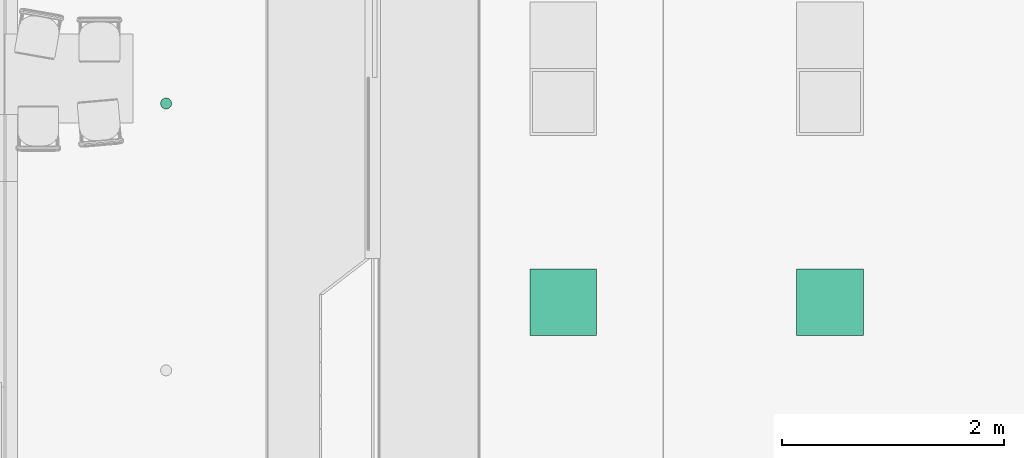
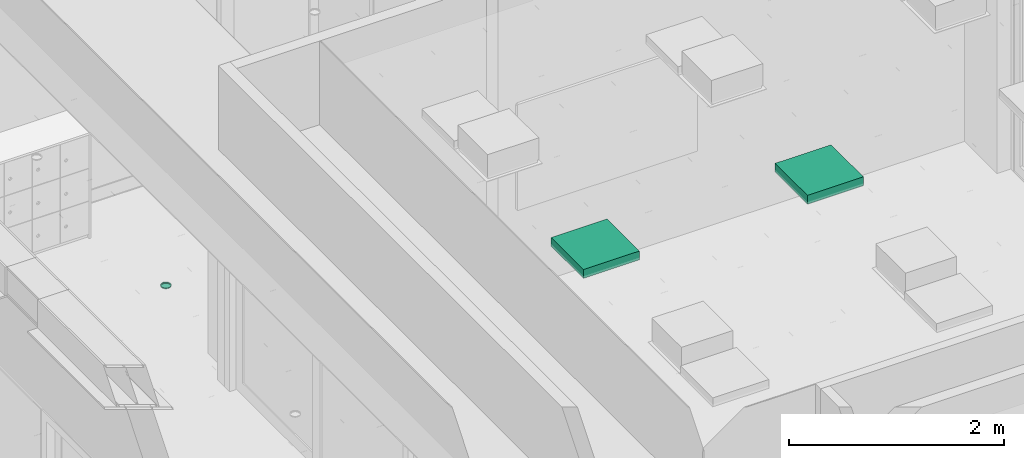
# One storey, part 267 of 347: 3 flow terminals.
"""IFC2X3 building model written with IfcOpenShell, lengths in millimetres."""

from ifc_helpers import new_model, entity, si_unit, converted_unit, derived_unit, money_unit, direction, frame, origin_with_axes, place, context, subcontext, project, spatial, open_shell, faceted_brep, surface_model, source, transform, mapped, type_object, type_shapes, element, save


model = new_model("IFC2X3")

# Units and contexts
model_context = context("Model", 3, precision=0.01, world=origin_with_axes(), true_north=direction((0.0, 1.0)))
plan_context = context("Plan", 3, precision=0.01, world=origin_with_axes(), true_north=direction((0.0, 1.0)))
body_context = subcontext(model_context, "Body", "Model", "MODEL_VIEW")
ifc_project = project(units=[si_unit("LENGTHUNIT", "METRE", prefix="MILLI"), si_unit("AREAUNIT", "SQUARE_METRE"), si_unit("VOLUMEUNIT", "CUBIC_METRE"), converted_unit("PLANEANGLEUNIT", "DEGREE", entity("IfcPlaneAngleMeasure", 0.0174532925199), si_unit("PLANEANGLEUNIT", "RADIAN"), dimensions=[0, 0, 0, 0, 0, 0, 0]), money_unit("EUR"), converted_unit("TIMEUNIT", "Year", entity("IfcTimeMeasure", 31556926.0), si_unit("TIMEUNIT", "SECOND"), dimensions=[0, 0, 1, 0, 0, 0, 0]), si_unit("MASSUNIT", "GRAM", prefix="KILO"), si_unit("THERMODYNAMICTEMPERATUREUNIT", "DEGREE_CELSIUS"), si_unit("LUMINOUSINTENSITYUNIT", "LUMEN"), si_unit("ENERGYUNIT", "JOULE", prefix="MEGA"), derived_unit("THERMALCONDUCTANCEUNIT", [(si_unit("POWERUNIT", "WATT"), 1), (si_unit("LENGTHUNIT", "METRE"), -1), (si_unit("THERMODYNAMICTEMPERATUREUNIT", "KELVIN"), -1)]), derived_unit("SPECIFICHEATCAPACITYUNIT", [(si_unit("ENERGYUNIT", "JOULE"), 1), (si_unit("MASSUNIT", "GRAM", prefix="KILO"), -1), (si_unit("THERMODYNAMICTEMPERATUREUNIT", "KELVIN"), -1)]), derived_unit("MASSDENSITYUNIT", [(si_unit("MASSUNIT", "GRAM", prefix="KILO"), 1), (si_unit("VOLUMEUNIT", "CUBIC_METRE"), -1)])], contexts=[model_context, plan_context])

# Site, building, storey
site_placement = place(None, origin_with_axes())
site = spatial("IfcSite", under=ifc_project, at=site_placement, Name="Site", CompositionType="ELEMENT")
building_placement = place(site_placement, origin_with_axes())
building = spatial("IfcBuilding", under=site, at=building_placement, Name="Naam gebouw", CompositionType="ELEMENT")
storey_placement = place(building_placement, origin_with_axes())
storey = spatial("IfcBuildingStorey", under=building, at=storey_placement, Name="begane grond", CompositionType="ELEMENT", Elevation=0.0)

# Flow terminals
lamp_type_1 = type_object("IfcLampType", Name="Spot plafond 01 25", PredefinedType="NOTDEFINED")
shared_shape_1 = source(origin_with_axes(), body_context, "Body", "SurfaceModel", [
    faceted_brep([(50.0, 0.0, -10.0), (46.1939766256, 19.1341716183, -10.0), (46.1939766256, 19.1341716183, 0.0), (50.0, 0.0, 0.0), (46.1939766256, -19.1341716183, -10.0), (35.3553390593, -35.3553390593, -10.0), (19.1341716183, -46.1939766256, -10.0), (0.0, -50.0, -10.0), (-19.1341716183, -46.1939766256, -10.0), (-35.3553390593, -35.3553390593, -10.0), (-46.1939766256, -19.1341716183, -10.0), (-50.0, 0.0, -10.0), (-46.1939766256, 19.1341716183, -10.0), (-35.3553390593, 35.3553390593, -10.0), (-19.1341716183, 46.1939766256, -10.0), (0.0, 50.0, -10.0), (19.1341716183, 46.1939766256, -10.0), (35.3553390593, 35.3553390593, -10.0), (40.0, 0.0, -10.0), (36.9551813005, 15.3073372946, -10.0), (28.2842712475, 28.2842712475, -10.0), (15.3073372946, 36.9551813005, -10.0), (0.0, 40.0, -10.0), (-15.3073372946, 36.9551813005, -10.0), (-28.2842712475, 28.2842712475, -10.0), (-36.9551813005, 15.3073372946, -10.0), (-40.0, 0.0, -10.0), (-36.9551813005, -15.3073372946, -10.0), (-28.2842712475, -28.2842712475, -10.0), (-15.3073372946, -36.9551813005, -10.0), (0.0, -40.0, -10.0), (15.3073372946, -36.9551813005, -10.0), (28.2842712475, -28.2842712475, -10.0), (36.9551813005, -15.3073372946, -10.0), (35.3553390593, 35.3553390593, 0.0), (19.1341716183, 46.1939766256, 0.0), (0.0, 50.0, 0.0), (-19.1341716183, 46.1939766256, 0.0), (-35.3553390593, 35.3553390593, 0.0), (-46.1939766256, 19.1341716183, 0.0), (-50.0, 0.0, 0.0), (-46.1939766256, -19.1341716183, 0.0), (-35.3553390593, -35.3553390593, 0.0), (-19.1341716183, -46.1939766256, 0.0), (0.0, -50.0, 0.0), (19.1341716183, -46.1939766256, 0.0), (35.3553390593, -35.3553390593, 0.0), (46.1939766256, -19.1341716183, 0.0), (40.0, 0.0, 0.0), (36.9551813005, -15.3073372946, 0.0), (28.2842712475, -28.2842712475, 0.0), (15.3073372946, -36.9551813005, 0.0), (0.0, -40.0, 0.0), (-15.3073372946, -36.9551813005, 0.0), (-28.2842712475, -28.2842712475, 0.0), (-36.9551813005, -15.3073372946, 0.0), (-40.0, 0.0, 0.0), (-36.9551813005, 15.3073372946, 0.0), (-28.2842712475, 28.2842712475, 0.0), (-15.3073372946, 36.9551813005, 0.0), (0.0, 40.0, 0.0), (15.3073372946, 36.9551813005, 0.0), (28.2842712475, 28.2842712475, 0.0), (36.9551813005, 15.3073372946, 0.0)], [[[0, 1, 2, 3]], [[0, 4, 5, 6, 7, 8, 9, 10, 11, 12, 13, 14, 15, 16, 17, 1], [18, 19, 20, 21, 22, 23, 24, 25, 26, 27, 28, 29, 30, 31, 32, 33]], [[1, 17, 34, 2]], [[3, 2, 34, 35, 36, 37, 38, 39, 40, 41, 42, 43, 44, 45, 46, 47], [48, 49, 50, 51, 52, 53, 54, 55, 56, 57, 58, 59, 60, 61, 62, 63]], [[4, 0, 3, 47]], [[5, 4, 47, 46]], [[6, 5, 46, 45]], [[7, 6, 45, 44]], [[8, 7, 44, 43]], [[9, 8, 43, 42]], [[10, 9, 42, 41]], [[11, 10, 41, 40]], [[12, 11, 40, 39]], [[13, 12, 39, 38]], [[14, 13, 38, 37]], [[15, 14, 37, 36]], [[16, 15, 36, 35]], [[17, 16, 35, 34]], [[19, 18, 48, 63]], [[20, 19, 63, 62]], [[21, 20, 62, 61]], [[22, 21, 61, 60]], [[23, 22, 60, 59]], [[24, 23, 59, 58]], [[25, 24, 58, 57]], [[26, 25, 57, 56]], [[27, 26, 56, 55]], [[28, 27, 55, 54]], [[29, 28, 54, 53]], [[30, 29, 53, 52]], [[31, 30, 52, 51]], [[32, 31, 51, 50]], [[33, 32, 50, 49]], [[18, 33, 49, 48]]]),
    surface_model("IfcShellBasedSurfaceModel", [(40.0, 0.0, -8.9), (36.9551813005, -15.3073372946, -8.9), (28.2842712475, -28.2842712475, -8.9), (15.3073372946, -36.9551813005, -8.9), (0.0, -40.0, -8.9), (-15.3073372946, -36.9551813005, -8.9), (-28.2842712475, -28.2842712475, -8.9), (-36.9551813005, -15.3073372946, -8.9), (-40.0, 0.0, -8.9), (-36.9551813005, 15.3073372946, -8.9), (-28.2842712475, 28.2842712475, -8.9), (-15.3073372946, 36.9551813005, -8.9), (0.0, 40.0, -8.9), (15.3073372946, 36.9551813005, -8.9), (28.2842712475, 28.2842712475, -8.9), (36.9551813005, 15.3073372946, -8.9)], [open_shell([[[0, 1, 2, 3, 4, 5, 6, 7, 8, 9, 10, 11, 12, 13, 14, 15]]])]),
])
type_shapes(lamp_type_1, [shared_shape_1])
flow_terminal_placement = place(storey_placement, frame((46155.0, 33824.9999638, 3000.0), z_axis=(0.0, 0.0, 1.0), x_axis=(1.0, 0.0, 0.0)))
element("IfcFlowTerminal", 1, at=flow_terminal_placement, inside=storey, type_object=lamp_type_1, Name="63_Lamp-x", ObjectType="Lamp", context=body_context, shape_type="MappedRepresentation", body=[
    mapped(shared_shape_1, transform((0.0, 0.0, 0.0))),
])
lamp_type_2 = type_object("IfcLampType", Name="TL plafond 25", PredefinedType="NOTDEFINED")
shared_shape_2 = source(origin_with_axes(), body_context, "Body", "SurfaceModel", [
    faceted_brep([(0.0, 0.0, -100.0), (600.0, 0.0, -100.0), (600.0, 0.0, 0.0), (0.0, 0.0, 0.0), (0.0, 600.0, -100.0), (600.0, 600.0, -100.0), (40.0, 40.0, -100.0), (560.0, 40.0, -100.0), (560.0, 560.0, -100.0), (40.0, 560.0, -100.0), (600.0, 600.0, 0.0), (0.0, 600.0, 0.0), (40.0, 40.0, 0.0), (40.0, 560.0, 0.0), (560.0, 560.0, 0.0), (560.0, 40.0, 0.0)], [[[0, 1, 2, 3]], [[0, 4, 5, 1], [6, 7, 8, 9]], [[1, 5, 10, 2]], [[3, 2, 10, 11], [12, 13, 14, 15]], [[4, 0, 3, 11]], [[5, 4, 11, 10]], [[7, 6, 12, 15]], [[8, 7, 15, 14]], [[9, 8, 14, 13]], [[6, 9, 13, 12]]]),
    faceted_brep([(40.0, 40.0, -16.3333333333), (560.0, 40.0, -16.3333333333), (560.0, 40.0, 0.0), (40.0, 40.0, 0.0), (40.0, 560.0, -16.3333333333), (560.0, 560.0, -16.3333333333), (560.0, 560.0, 0.0), (40.0, 560.0, 0.0)], [[[0, 1, 2, 3]], [[0, 4, 5, 1]], [[1, 5, 6, 2]], [[3, 2, 6, 7]], [[4, 0, 3, 7]], [[5, 4, 7, 6]]]),
    surface_model("IfcShellBasedSurfaceModel", [(559.0, 41.0, -100.0), (40.0, 41.0, -100.0), (40.0, 559.0, -100.0), (559.0, 559.0, -100.0)], [open_shell([[[0, 1, 2, 3]]])]),
    faceted_brep([(40.0, 40.0, -100.0), (560.0, 40.0, -100.0), (560.0, 40.0, -60.0), (40.0, 40.0, -60.0), (40.0, 560.0, -100.0), (560.0, 560.0, -100.0), (41.0, 41.0, -100.0), (559.0, 41.0, -100.0), (559.0, 559.0, -100.0), (41.0, 559.0, -100.0), (560.0, 560.0, -60.0), (40.0, 560.0, -60.0), (41.0, 41.0, -60.0), (41.0, 559.0, -60.0), (559.0, 559.0, -60.0), (559.0, 41.0, -60.0)], [[[0, 1, 2, 3]], [[0, 4, 5, 1], [6, 7, 8, 9]], [[1, 5, 10, 2]], [[3, 2, 10, 11], [12, 13, 14, 15]], [[4, 0, 3, 11]], [[5, 4, 11, 10]], [[7, 6, 12, 15]], [[8, 7, 15, 14]], [[9, 8, 14, 13]], [[6, 9, 13, 12]]]),
    faceted_brep([(40.0, 144.0, -48.3333333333), (40.0, 149.740251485, -47.191526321), (560.0, 149.740251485, -47.191526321), (560.0, 144.0, -48.3333333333), (40.0, 138.259748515, -47.191526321), (40.0, 133.393398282, -43.9399350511), (40.0, 130.141807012, -39.0735848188), (40.0, 129.0, -33.3333333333), (40.0, 130.141807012, -27.5930818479), (40.0, 133.393398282, -22.7267316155), (40.0, 138.259748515, -19.4751403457), (40.0, 144.0, -18.3333333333), (40.0, 149.740251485, -19.4751403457), (40.0, 154.606601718, -22.7267316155), (40.0, 157.858192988, -27.5930818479), (40.0, 159.0, -33.3333333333), (40.0, 157.858192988, -39.0735848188), (40.0, 154.606601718, -43.9399350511), (40.0, 144.0, -46.3333333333), (40.0, 148.974884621, -45.343767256), (40.0, 153.192388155, -42.5257214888), (40.0, 156.010433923, -38.3082179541), (40.0, 157.0, -33.3333333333), (40.0, 156.010433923, -28.3584487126), (40.0, 153.192388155, -24.1409451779), (40.0, 148.974884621, -21.3228994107), (40.0, 144.0, -20.3333333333), (40.0, 139.025115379, -21.3228994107), (40.0, 134.807611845, -24.1409451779), (40.0, 131.989566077, -28.3584487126), (40.0, 131.0, -33.3333333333), (40.0, 131.989566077, -38.3082179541), (40.0, 134.807611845, -42.5257214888), (40.0, 139.025115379, -45.343767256), (560.0, 154.606601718, -43.9399350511), (560.0, 157.858192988, -39.0735848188), (560.0, 159.0, -33.3333333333), (560.0, 157.858192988, -27.5930818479), (560.0, 154.606601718, -22.7267316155), (560.0, 149.740251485, -19.4751403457), (560.0, 144.0, -18.3333333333), (560.0, 138.259748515, -19.4751403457), (560.0, 133.393398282, -22.7267316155), (560.0, 130.141807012, -27.5930818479), (560.0, 129.0, -33.3333333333), (560.0, 130.141807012, -39.0735848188), (560.0, 133.393398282, -43.9399350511), (560.0, 138.259748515, -47.191526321), (560.0, 144.0, -46.3333333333), (560.0, 139.025115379, -45.343767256), (560.0, 134.807611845, -42.5257214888), (560.0, 131.989566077, -38.3082179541), (560.0, 131.0, -33.3333333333), (560.0, 131.989566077, -28.3584487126), (560.0, 134.807611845, -24.1409451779), (560.0, 139.025115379, -21.3228994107), (560.0, 144.0, -20.3333333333), (560.0, 148.974884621, -21.3228994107), (560.0, 153.192388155, -24.1409451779), (560.0, 156.010433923, -28.3584487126), (560.0, 157.0, -33.3333333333), (560.0, 156.010433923, -38.3082179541), (560.0, 153.192388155, -42.5257214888), (560.0, 148.974884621, -45.343767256)], [[[0, 1, 2, 3]], [[0, 4, 5, 6, 7, 8, 9, 10, 11, 12, 13, 14, 15, 16, 17, 1], [18, 19, 20, 21, 22, 23, 24, 25, 26, 27, 28, 29, 30, 31, 32, 33]], [[1, 17, 34, 2]], [[3, 2, 34, 35, 36, 37, 38, 39, 40, 41, 42, 43, 44, 45, 46, 47], [48, 49, 50, 51, 52, 53, 54, 55, 56, 57, 58, 59, 60, 61, 62, 63]], [[4, 0, 3, 47]], [[5, 4, 47, 46]], [[6, 5, 46, 45]], [[7, 6, 45, 44]], [[8, 7, 44, 43]], [[9, 8, 43, 42]], [[10, 9, 42, 41]], [[11, 10, 41, 40]], [[12, 11, 40, 39]], [[13, 12, 39, 38]], [[14, 13, 38, 37]], [[15, 14, 37, 36]], [[16, 15, 36, 35]], [[17, 16, 35, 34]], [[19, 18, 48, 63]], [[20, 19, 63, 62]], [[21, 20, 62, 61]], [[22, 21, 61, 60]], [[23, 22, 60, 59]], [[24, 23, 59, 58]], [[25, 24, 58, 57]], [[26, 25, 57, 56]], [[27, 26, 56, 55]], [[28, 27, 55, 54]], [[29, 28, 54, 53]], [[30, 29, 53, 52]], [[31, 30, 52, 51]], [[32, 31, 51, 50]], [[33, 32, 50, 49]], [[18, 33, 49, 48]]]),
    faceted_brep([(40.0, 248.0, -48.3333333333), (40.0, 253.740251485, -47.191526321), (560.0, 253.740251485, -47.191526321), (560.0, 248.0, -48.3333333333), (40.0, 242.259748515, -47.191526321), (40.0, 237.393398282, -43.9399350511), (40.0, 234.141807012, -39.0735848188), (40.0, 233.0, -33.3333333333), (40.0, 234.141807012, -27.5930818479), (40.0, 237.393398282, -22.7267316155), (40.0, 242.259748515, -19.4751403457), (40.0, 248.0, -18.3333333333), (40.0, 253.740251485, -19.4751403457), (40.0, 258.606601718, -22.7267316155), (40.0, 261.858192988, -27.5930818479), (40.0, 263.0, -33.3333333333), (40.0, 261.858192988, -39.0735848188), (40.0, 258.606601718, -43.9399350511), (40.0, 248.0, -46.3333333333), (40.0, 252.974884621, -45.343767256), (40.0, 257.192388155, -42.5257214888), (40.0, 260.010433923, -38.3082179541), (40.0, 261.0, -33.3333333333), (40.0, 260.010433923, -28.3584487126), (40.0, 257.192388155, -24.1409451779), (40.0, 252.974884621, -21.3228994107), (40.0, 248.0, -20.3333333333), (40.0, 243.025115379, -21.3228994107), (40.0, 238.807611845, -24.1409451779), (40.0, 235.989566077, -28.3584487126), (40.0, 235.0, -33.3333333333), (40.0, 235.989566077, -38.3082179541), (40.0, 238.807611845, -42.5257214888), (40.0, 243.025115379, -45.343767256), (560.0, 258.606601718, -43.9399350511), (560.0, 261.858192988, -39.0735848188), (560.0, 263.0, -33.3333333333), (560.0, 261.858192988, -27.5930818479), (560.0, 258.606601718, -22.7267316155), (560.0, 253.740251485, -19.4751403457), (560.0, 248.0, -18.3333333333), (560.0, 242.259748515, -19.4751403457), (560.0, 237.393398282, -22.7267316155), (560.0, 234.141807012, -27.5930818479), (560.0, 233.0, -33.3333333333), (560.0, 234.141807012, -39.0735848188), (560.0, 237.393398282, -43.9399350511), (560.0, 242.259748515, -47.191526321), (560.0, 248.0, -46.3333333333), (560.0, 243.025115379, -45.343767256), (560.0, 238.807611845, -42.5257214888), (560.0, 235.989566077, -38.3082179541), (560.0, 235.0, -33.3333333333), (560.0, 235.989566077, -28.3584487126), (560.0, 238.807611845, -24.1409451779), (560.0, 243.025115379, -21.3228994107), (560.0, 248.0, -20.3333333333), (560.0, 252.974884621, -21.3228994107), (560.0, 257.192388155, -24.1409451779), (560.0, 260.010433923, -28.3584487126), (560.0, 261.0, -33.3333333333), (560.0, 260.010433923, -38.3082179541), (560.0, 257.192388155, -42.5257214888), (560.0, 252.974884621, -45.343767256)], [[[0, 1, 2, 3]], [[0, 4, 5, 6, 7, 8, 9, 10, 11, 12, 13, 14, 15, 16, 17, 1], [18, 19, 20, 21, 22, 23, 24, 25, 26, 27, 28, 29, 30, 31, 32, 33]], [[1, 17, 34, 2]], [[3, 2, 34, 35, 36, 37, 38, 39, 40, 41, 42, 43, 44, 45, 46, 47], [48, 49, 50, 51, 52, 53, 54, 55, 56, 57, 58, 59, 60, 61, 62, 63]], [[4, 0, 3, 47]], [[5, 4, 47, 46]], [[6, 5, 46, 45]], [[7, 6, 45, 44]], [[8, 7, 44, 43]], [[9, 8, 43, 42]], [[10, 9, 42, 41]], [[11, 10, 41, 40]], [[12, 11, 40, 39]], [[13, 12, 39, 38]], [[14, 13, 38, 37]], [[15, 14, 37, 36]], [[16, 15, 36, 35]], [[17, 16, 35, 34]], [[19, 18, 48, 63]], [[20, 19, 63, 62]], [[21, 20, 62, 61]], [[22, 21, 61, 60]], [[23, 22, 60, 59]], [[24, 23, 59, 58]], [[25, 24, 58, 57]], [[26, 25, 57, 56]], [[27, 26, 56, 55]], [[28, 27, 55, 54]], [[29, 28, 54, 53]], [[30, 29, 53, 52]], [[31, 30, 52, 51]], [[32, 31, 51, 50]], [[33, 32, 50, 49]], [[18, 33, 49, 48]]]),
    faceted_brep([(40.0, 352.0, -48.3333333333), (40.0, 357.740251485, -47.191526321), (560.0, 357.740251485, -47.191526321), (560.0, 352.0, -48.3333333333), (40.0, 346.259748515, -47.191526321), (40.0, 341.393398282, -43.9399350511), (40.0, 338.141807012, -39.0735848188), (40.0, 337.0, -33.3333333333), (40.0, 338.141807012, -27.5930818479), (40.0, 341.393398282, -22.7267316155), (40.0, 346.259748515, -19.4751403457), (40.0, 352.0, -18.3333333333), (40.0, 357.740251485, -19.4751403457), (40.0, 362.606601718, -22.7267316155), (40.0, 365.858192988, -27.5930818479), (40.0, 367.0, -33.3333333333), (40.0, 365.858192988, -39.0735848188), (40.0, 362.606601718, -43.9399350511), (40.0, 352.0, -46.3333333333), (40.0, 356.974884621, -45.343767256), (40.0, 361.192388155, -42.5257214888), (40.0, 364.010433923, -38.3082179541), (40.0, 365.0, -33.3333333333), (40.0, 364.010433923, -28.3584487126), (40.0, 361.192388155, -24.1409451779), (40.0, 356.974884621, -21.3228994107), (40.0, 352.0, -20.3333333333), (40.0, 347.025115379, -21.3228994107), (40.0, 342.807611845, -24.1409451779), (40.0, 339.989566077, -28.3584487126), (40.0, 339.0, -33.3333333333), (40.0, 339.989566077, -38.3082179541), (40.0, 342.807611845, -42.5257214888), (40.0, 347.025115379, -45.343767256), (560.0, 362.606601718, -43.9399350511), (560.0, 365.858192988, -39.0735848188), (560.0, 367.0, -33.3333333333), (560.0, 365.858192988, -27.5930818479), (560.0, 362.606601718, -22.7267316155), (560.0, 357.740251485, -19.4751403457), (560.0, 352.0, -18.3333333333), (560.0, 346.259748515, -19.4751403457), (560.0, 341.393398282, -22.7267316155), (560.0, 338.141807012, -27.5930818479), (560.0, 337.0, -33.3333333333), (560.0, 338.141807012, -39.0735848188), (560.0, 341.393398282, -43.9399350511), (560.0, 346.259748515, -47.191526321), (560.0, 352.0, -46.3333333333), (560.0, 347.025115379, -45.343767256), (560.0, 342.807611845, -42.5257214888), (560.0, 339.989566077, -38.3082179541), (560.0, 339.0, -33.3333333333), (560.0, 339.989566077, -28.3584487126), (560.0, 342.807611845, -24.1409451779), (560.0, 347.025115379, -21.3228994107), (560.0, 352.0, -20.3333333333), (560.0, 356.974884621, -21.3228994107), (560.0, 361.192388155, -24.1409451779), (560.0, 364.010433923, -28.3584487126), (560.0, 365.0, -33.3333333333), (560.0, 364.010433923, -38.3082179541), (560.0, 361.192388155, -42.5257214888), (560.0, 356.974884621, -45.343767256)], [[[0, 1, 2, 3]], [[0, 4, 5, 6, 7, 8, 9, 10, 11, 12, 13, 14, 15, 16, 17, 1], [18, 19, 20, 21, 22, 23, 24, 25, 26, 27, 28, 29, 30, 31, 32, 33]], [[1, 17, 34, 2]], [[3, 2, 34, 35, 36, 37, 38, 39, 40, 41, 42, 43, 44, 45, 46, 47], [48, 49, 50, 51, 52, 53, 54, 55, 56, 57, 58, 59, 60, 61, 62, 63]], [[4, 0, 3, 47]], [[5, 4, 47, 46]], [[6, 5, 46, 45]], [[7, 6, 45, 44]], [[8, 7, 44, 43]], [[9, 8, 43, 42]], [[10, 9, 42, 41]], [[11, 10, 41, 40]], [[12, 11, 40, 39]], [[13, 12, 39, 38]], [[14, 13, 38, 37]], [[15, 14, 37, 36]], [[16, 15, 36, 35]], [[17, 16, 35, 34]], [[19, 18, 48, 63]], [[20, 19, 63, 62]], [[21, 20, 62, 61]], [[22, 21, 61, 60]], [[23, 22, 60, 59]], [[24, 23, 59, 58]], [[25, 24, 58, 57]], [[26, 25, 57, 56]], [[27, 26, 56, 55]], [[28, 27, 55, 54]], [[29, 28, 54, 53]], [[30, 29, 53, 52]], [[31, 30, 52, 51]], [[32, 31, 51, 50]], [[33, 32, 50, 49]], [[18, 33, 49, 48]]]),
    faceted_brep([(40.0, 456.0, -48.3333333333), (40.0, 461.740251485, -47.191526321), (560.0, 461.740251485, -47.191526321), (560.0, 456.0, -48.3333333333), (40.0, 450.259748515, -47.191526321), (40.0, 445.393398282, -43.9399350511), (40.0, 442.141807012, -39.0735848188), (40.0, 441.0, -33.3333333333), (40.0, 442.141807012, -27.5930818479), (40.0, 445.393398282, -22.7267316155), (40.0, 450.259748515, -19.4751403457), (40.0, 456.0, -18.3333333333), (40.0, 461.740251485, -19.4751403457), (40.0, 466.606601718, -22.7267316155), (40.0, 469.858192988, -27.5930818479), (40.0, 471.0, -33.3333333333), (40.0, 469.858192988, -39.0735848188), (40.0, 466.606601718, -43.9399350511), (40.0, 456.0, -46.3333333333), (40.0, 460.974884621, -45.343767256), (40.0, 465.192388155, -42.5257214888), (40.0, 468.010433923, -38.3082179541), (40.0, 469.0, -33.3333333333), (40.0, 468.010433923, -28.3584487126), (40.0, 465.192388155, -24.1409451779), (40.0, 460.974884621, -21.3228994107), (40.0, 456.0, -20.3333333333), (40.0, 451.025115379, -21.3228994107), (40.0, 446.807611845, -24.1409451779), (40.0, 443.989566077, -28.3584487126), (40.0, 443.0, -33.3333333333), (40.0, 443.989566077, -38.3082179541), (40.0, 446.807611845, -42.5257214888), (40.0, 451.025115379, -45.343767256), (560.0, 466.606601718, -43.9399350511), (560.0, 469.858192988, -39.0735848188), (560.0, 471.0, -33.3333333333), (560.0, 469.858192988, -27.5930818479), (560.0, 466.606601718, -22.7267316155), (560.0, 461.740251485, -19.4751403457), (560.0, 456.0, -18.3333333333), (560.0, 450.259748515, -19.4751403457), (560.0, 445.393398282, -22.7267316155), (560.0, 442.141807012, -27.5930818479), (560.0, 441.0, -33.3333333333), (560.0, 442.141807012, -39.0735848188), (560.0, 445.393398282, -43.9399350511), (560.0, 450.259748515, -47.191526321), (560.0, 456.0, -46.3333333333), (560.0, 451.025115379, -45.343767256), (560.0, 446.807611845, -42.5257214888), (560.0, 443.989566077, -38.3082179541), (560.0, 443.0, -33.3333333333), (560.0, 443.989566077, -28.3584487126), (560.0, 446.807611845, -24.1409451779), (560.0, 451.025115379, -21.3228994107), (560.0, 456.0, -20.3333333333), (560.0, 460.974884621, -21.3228994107), (560.0, 465.192388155, -24.1409451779), (560.0, 468.010433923, -28.3584487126), (560.0, 469.0, -33.3333333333), (560.0, 468.010433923, -38.3082179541), (560.0, 465.192388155, -42.5257214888), (560.0, 460.974884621, -45.343767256)], [[[0, 1, 2, 3]], [[0, 4, 5, 6, 7, 8, 9, 10, 11, 12, 13, 14, 15, 16, 17, 1], [18, 19, 20, 21, 22, 23, 24, 25, 26, 27, 28, 29, 30, 31, 32, 33]], [[1, 17, 34, 2]], [[3, 2, 34, 35, 36, 37, 38, 39, 40, 41, 42, 43, 44, 45, 46, 47], [48, 49, 50, 51, 52, 53, 54, 55, 56, 57, 58, 59, 60, 61, 62, 63]], [[4, 0, 3, 47]], [[5, 4, 47, 46]], [[6, 5, 46, 45]], [[7, 6, 45, 44]], [[8, 7, 44, 43]], [[9, 8, 43, 42]], [[10, 9, 42, 41]], [[11, 10, 41, 40]], [[12, 11, 40, 39]], [[13, 12, 39, 38]], [[14, 13, 38, 37]], [[15, 14, 37, 36]], [[16, 15, 36, 35]], [[17, 16, 35, 34]], [[19, 18, 48, 63]], [[20, 19, 63, 62]], [[21, 20, 62, 61]], [[22, 21, 61, 60]], [[23, 22, 60, 59]], [[24, 23, 59, 58]], [[25, 24, 58, 57]], [[26, 25, 57, 56]], [[27, 26, 56, 55]], [[28, 27, 55, 54]], [[29, 28, 54, 53]], [[30, 29, 53, 52]], [[31, 30, 52, 51]], [[32, 31, 51, 50]], [[33, 32, 50, 49]], [[18, 33, 49, 48]]]),
])
type_shapes(lamp_type_2, [shared_shape_2])
for number, where, z_axis, x_axis, name in (
    (2, (49425.0, 31737.5, 3295.0), (0.0, 0.0, 1.0), (1.0, 0.0, 0.0), "63_Lamp-x"),
    (3, (51825.0, 31737.5, 3295.0), (0.0, 0.0, 1.0), (1.0, 0.0, 0.0), "63_Lamp-x"),
):
    element("IfcFlowTerminal", number, at=place(storey_placement, frame(where, z_axis=z_axis, x_axis=x_axis)), inside=storey, type_object=lamp_type_2, Name=name, ObjectType="Lamp", context=body_context, shape_type="MappedRepresentation", body=[
        mapped(shared_shape_2, transform((0.0, 0.0, 0.0))),
    ])

save(model, "model.ifc")
